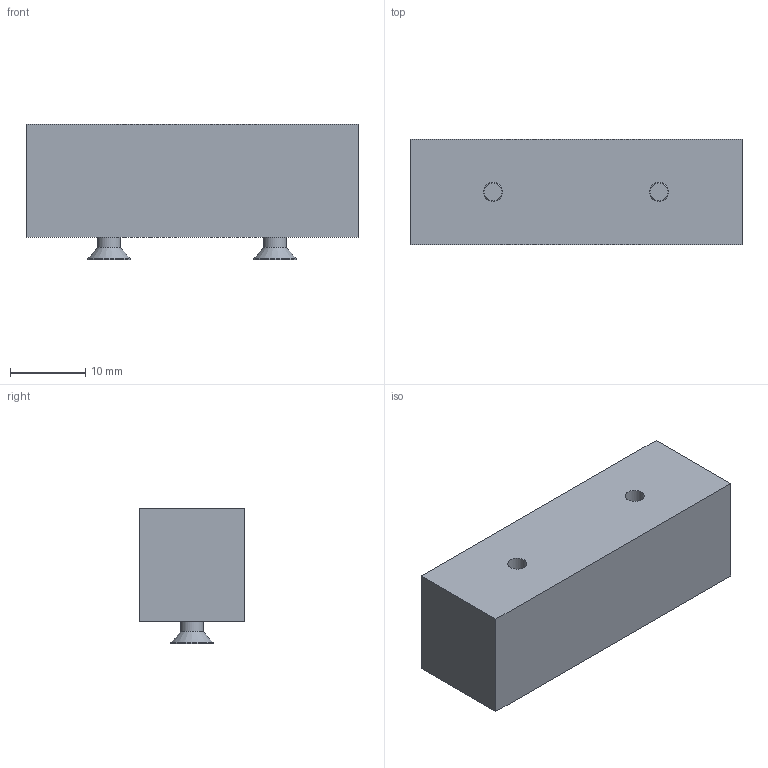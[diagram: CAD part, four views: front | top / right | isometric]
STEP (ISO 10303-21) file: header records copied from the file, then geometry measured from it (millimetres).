
FILE_DESCRIPTION(/* description */ (''),/* implementation_level */ '2;1');
FILE_NAME(/* name */ 'C:/Users/anton/Documents/Kerbal Space Program/Kerbal_Control_Panel/KCP2/CAD/ForManufacture/KeyboardPillar_v91.step',/* time_stamp */ '2020-11-13T22:13:17-08:00',/* author */ (''),/* organization */ (''),/* preprocessor_version */ 'ST-DEVELOPER v18.1',/* originating_system */ 'Autodesk Translation Framework v9.3.0.1241',/* authorisation */ '');
FILE_SCHEMA (('AUTOMOTIVE_DESIGN { 1 0 10303 214 3 1 1 }'));
Length unit declared in the file: millimetre
Products named in the file (2): Pillar; M3x16mm Screw
Assembly tree (2 placements, depth 2):
  Pillar
    M3x16mm Screw  x2
Bounding box: 44 x 14 x 18 mm (x, y, z)
Volume: 9335.9 mm3; surface area: 3611.3 mm2
Topology: 3 solids, 3 shells, 46 faces, 112 edges, 74 vertices
Faces by surface type: plane 36, cylinder 6, cone 4
Full cylindrical faces by diameter (mm): 2.529 x2, 3 x2, 5.6 x2
Entity records: 867 total; most frequent: CARTESIAN_POINT 139, DIRECTION 138, ORIENTED_EDGE 130, EDGE_CURVE 65, LINE 54, VECTOR 54, VERTEX_POINT 43, AXIS2_PLACEMENT_3D 42
